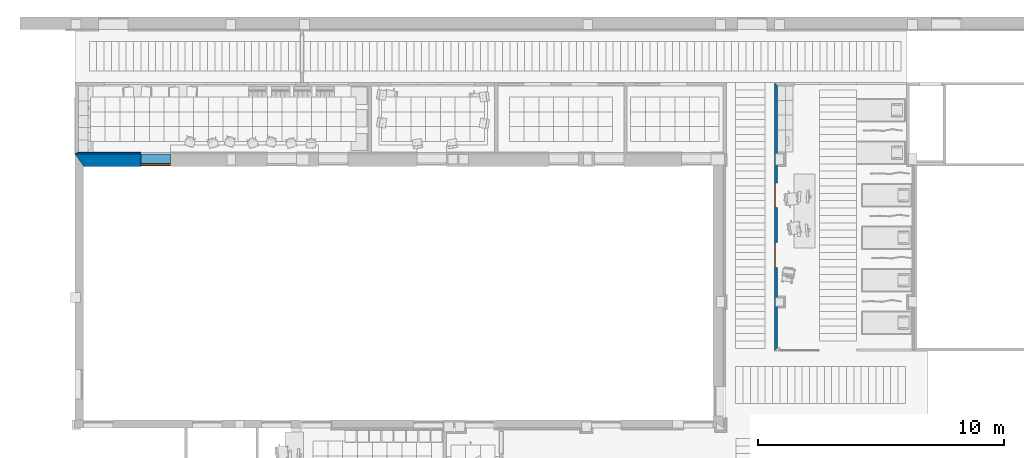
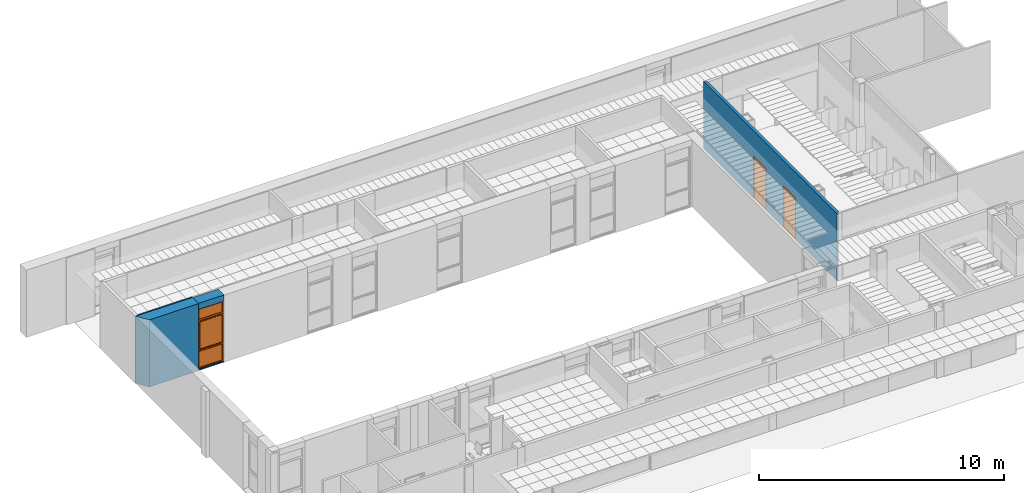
# One storey, part 35 of 68: 4 walls, 3 proxies, 3 openings.
"""IFC2X3 building model written with IfcOpenShell, lengths in millimetres."""

from ifc_helpers import new_model, entity, si_unit, converted_unit, derived_unit, money_unit, direction, frame, origin_with_axes, origin_2d_with_axis, place, context, subcontext, project, spatial, polyline, rectangle, outline, extrude, open_shell, faceted_brep, surface_model, source, transform, mapped, material, layer, layer_set, layer_usage, type_object, element, fill, save


model = new_model("IFC2X3")

# Units and contexts
model_context = context("Model", 3, precision=0.01, world=origin_with_axes(), true_north=direction((0.0, 1.0)))
body_context = subcontext(model_context, "Body", "Model", "MODEL_VIEW")
ifc_project = project(units=[si_unit("LENGTHUNIT", "METRE", prefix="MILLI"), si_unit("AREAUNIT", "SQUARE_METRE"), si_unit("VOLUMEUNIT", "CUBIC_METRE"), converted_unit("PLANEANGLEUNIT", "DEGREE", entity("IfcPlaneAngleMeasure", 0.0174532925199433), si_unit("PLANEANGLEUNIT", "RADIAN"), dimensions=[0, 0, 0, 0, 0, 0, 0]), money_unit("USD"), converted_unit("TIMEUNIT", "Year", entity("IfcTimeMeasure", 31557600.0), si_unit("TIMEUNIT", "SECOND"), dimensions=[0, 0, 1, 0, 0, 0, 0]), si_unit("MASSUNIT", "GRAM", prefix="KILO"), si_unit("THERMODYNAMICTEMPERATUREUNIT", "DEGREE_CELSIUS"), si_unit("LUMINOUSINTENSITYUNIT", "LUMEN"), si_unit("ENERGYUNIT", "JOULE", prefix="MEGA"), derived_unit("THERMALCONDUCTANCEUNIT", [(si_unit("POWERUNIT", "WATT"), 1), (si_unit("LENGTHUNIT", "METRE"), -1), (si_unit("THERMODYNAMICTEMPERATUREUNIT", "KELVIN"), -1)]), derived_unit("SPECIFICHEATCAPACITYUNIT", [(si_unit("ENERGYUNIT", "JOULE"), 1), (si_unit("MASSUNIT", "GRAM", prefix="KILO"), -1), (si_unit("THERMODYNAMICTEMPERATUREUNIT", "KELVIN"), -1)]), derived_unit("MASSDENSITYUNIT", [(si_unit("MASSUNIT", "GRAM", prefix="KILO"), 1), (si_unit("VOLUMEUNIT", "CUBIC_METRE"), -1)])], contexts=[model_context])

# Site, building, storey
site_placement = place(None, origin_with_axes())
site = spatial("IfcSite", under=ifc_project, at=site_placement, Name="Sitio", CompositionType="ELEMENT")
building_placement = place(site_placement, origin_with_axes())
building = spatial("IfcBuilding", under=site, at=building_placement, Name="Construcción", CompositionType="ELEMENT")
storey_placement = place(building_placement, origin_with_axes())
storey = spatial("IfcBuildingStorey", under=building, at=storey_placement, Name="PLANTA 1ª", CompositionType="ELEMENT", Elevation=0.0)

# Wall, opening, proxy
ifc_material_1 = material(Name="ARQ_AM246_Arrebossat_De_Guix")
ifc_layer_1 = layer(ifc_material_1, 10.0, ventilated="UNKNOWN")
ifc_material_2 = material(Name="ARQ_CE217_Gero")
ifc_layer_2 = layer(ifc_material_2, 120.0, ventilated="UNKNOWN")
ifc_material_3 = material(Name="ARQ_AI031_Aillament_Poliestireno expandido EPS")
ifc_layer_3 = layer(ifc_material_3, 120.0, ventilated="UNKNOWN")
ifc_material_4 = material(Name="ARQ_CE218_Ceramic")
ifc_layer_4 = layer(ifc_material_4, 220.0, ventilated="UNKNOWN")
ifc_layer_5 = layer(ifc_material_1, 10.0, ventilated="UNKNOWN")
ifc_layer_set_1 = layer_set([ifc_layer_1, ifc_layer_2, ifc_layer_3, ifc_layer_4, ifc_layer_5], Name="façana pati CR2 (ampit)")
ifc_layer_usage_1 = layer_usage(ifc_layer_set_1, "AXIS2", "POSITIVE", -480.0)
wall_type_1 = type_object("IfcWallType", Name="façana pati CR2 (ampit) 480", PredefinedType="NOTDEFINED")
wall_1_placement = place(storey_placement, frame((-25366.43135579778, -1208.97582371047, 0.0), z_axis=(0.0, 0.0, 1.0), x_axis=(1.0, 0.0, 0.0)))
wall_1 = element("IfcWallStandardCase", 1, at=wall_1_placement, inside=storey, type_object=wall_type_1, material=ifc_layer_usage_1, Name="MS-200", context=body_context, shape_type="SweptSolid", body=[
    extrude(outline(polyline([(0.0, -480.0), (1200.000000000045, -480.0), (1200.000000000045, 0.0), (0.0, 0.0), (0.0, -480.0)])), origin_with_axes(), (0.0, 0.0, 1.0), 3350.0),
])
opening_1_placement = place(wall_1_placement, frame((600.0000000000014, 0.0, 50.0), z_axis=(0.0, 0.0, 1.0), x_axis=(1.0, 0.0, 0.0)))
opening_1 = element("IfcOpeningElement", 2, at=opening_1_placement, cuts=wall_1, Name="F01", context=body_context, shape_type="SweptSolid", body=[
    extrude(rectangle(XDim=1200.000000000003, YDim=3000.0, at=origin_2d_with_axis()), frame((0.0, -429.9999999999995, 1500.0), z_axis=(0.0, -1.0, 0.0), x_axis=(-1.0, 0.0, 0.0)), (0.0, 0.0, -1.0), 909.9999999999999),
    extrude(rectangle(XDim=1200.000000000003, YDim=3000.0, at=origin_2d_with_axis()), frame((0.0, -429.9999999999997, 1500.0), z_axis=(0.0, 1.0, 0.0), x_axis=(-1.0, 0.0, 0.0)), (0.0, 0.0, -1.0), 530.0),
])
building_element_proxy_type_1 = type_object("IfcBuildingElementProxyType", Name="Ventana Vertical Multi-Faja 27", PredefinedType="NOTDEFINED")
shared_shape_1 = source(origin_with_axes(), body_context, "Body", "SurfaceModel", [
    faceted_brep([(-575.0, 0.0, 925.0), (-549.9999999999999, 0.0, 925.0), (-549.9999999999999, 0.0, 850.0), (-549.9999999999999, 0.0, 50.00000000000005), (-600.0, 0.0, 50.00000000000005), (-600.0, 0.0, 2950.0), (-549.9999999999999, 0.0, 2950.0), (-549.9999999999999, 0.0, 2450.0), (-549.9999999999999, 0.0, 2375.0), (-575.0, 0.0, 2375.0), (-575.0, -25.00000000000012, 925.0), (-549.9999999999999, -25.00000000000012, 925.0), (-549.9999999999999, -25.00000000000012, 950.0000000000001), (-549.9999999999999, -50.00000000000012, 950.0000000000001), (-549.9999999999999, -50.00000000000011, 850.0), (-549.9999999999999, -50.00000000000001, 50.00000000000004), (-600.0, -50.00000000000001, 50.00000000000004), (-600.0, -50.00000000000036, 2950.0), (-549.9999999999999, -50.00000000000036, 2950.0), (-549.9999999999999, -50.0000000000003, 2450.0), (-550.0, -25.00000000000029, 2375.0), (-549.9999999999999, -50.00000000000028, 2350.0), (-549.9999999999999, -25.00000000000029, 2350.0), (-575.0, -25.00000000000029, 2375.0)], [[[0, 1, 2, 3, 4, 5, 6, 7, 8, 9]], [[0, 10, 11, 1]], [[11, 12, 13, 14, 2, 1]], [[3, 2, 14, 15]], [[4, 3, 15, 16]], [[5, 4, 16, 17]], [[6, 5, 17, 18]], [[7, 6, 18, 19]], [[20, 8, 7, 19, 21, 22]], [[20, 23, 9, 8]], [[9, 23, 10, 0]], [[22, 12, 11, 10, 23, 20]], [[22, 21, 13, 12]], [[17, 16, 15, 14, 13, 21, 19, 18]]]),
    faceted_brep([(575.0, 0.0, 925.0), (575.0, 0.0, 2375.0), (549.9999999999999, 0.0, 2375.0), (549.9999999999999, 0.0, 2450.0), (549.9999999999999, 0.0, 2950.0), (600.0, 0.0, 2950.0), (600.0, 0.0, 50.00000000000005), (549.9999999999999, 0.0, 50.00000000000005), (549.9999999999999, 0.0, 850.0), (549.9999999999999, 0.0, 925.0), (575.0, -25.00000000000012, 925.0), (575.0, -25.00000000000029, 2375.0), (549.9999999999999, -25.00000000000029, 2375.0), (549.9999999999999, -25.00000000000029, 2350.0), (549.9999999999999, -50.00000000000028, 2350.0), (549.9999999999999, -50.0000000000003, 2450.0), (549.9999999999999, -50.00000000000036, 2950.0), (600.0, -50.00000000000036, 2950.0), (600.0, -50.00000000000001, 50.00000000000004), (549.9999999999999, -50.00000000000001, 50.00000000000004), (549.9999999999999, -50.00000000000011, 850.0), (550.0, -25.00000000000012, 925.0), (549.9999999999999, -50.00000000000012, 950.0000000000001), (549.9999999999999, -25.00000000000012, 950.0000000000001)], [[[0, 1, 2, 3, 4, 5, 6, 7, 8, 9]], [[0, 10, 11, 1]], [[1, 11, 12, 2]], [[12, 13, 14, 15, 3, 2]], [[4, 3, 15, 16]], [[5, 4, 16, 17]], [[6, 5, 17, 18]], [[7, 6, 18, 19]], [[8, 7, 19, 20]], [[21, 9, 8, 20, 22, 23]], [[9, 21, 10, 0]], [[12, 11, 10, 21, 23, 13]], [[23, 22, 14, 13]], [[14, 22, 20, 19, 18, 17, 16, 15]]]),
    faceted_brep([(-549.9999999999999, -25.00000000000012, 950.0000000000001), (-549.9999999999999, -50.00000000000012, 950.0000000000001), (549.9999999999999, -50.00000000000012, 950.0000000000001), (549.9999999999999, -25.00000000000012, 950.0000000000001), (-549.9999999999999, -25.00000000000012, 925.0), (-549.9999999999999, 0.0, 925.0), (-549.9999999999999, 0.0, 850.0), (-549.9999999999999, -50.00000000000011, 850.0), (549.9999999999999, -50.00000000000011, 850.0), (550.0, -25.00000000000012, 925.0), (549.9999999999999, 0.0, 850.0), (549.9999999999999, 0.0, 925.0)], [[[0, 1, 2, 3]], [[4, 5, 6, 7, 1, 0]], [[1, 7, 8, 2]], [[9, 3, 2, 8, 10, 11]], [[9, 4, 0, 3]], [[5, 4, 9, 11]], [[11, 10, 6, 5]], [[6, 10, 8, 7]]]),
    faceted_brep([(-549.9999999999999, 0.0, 2375.0), (-549.9999999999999, 0.0, 2450.0), (549.9999999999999, 0.0, 2450.0), (549.9999999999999, 0.0, 2375.0), (-550.0, -25.00000000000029, 2375.0), (-549.9999999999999, -25.00000000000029, 2350.0), (-549.9999999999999, -50.00000000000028, 2350.0), (-549.9999999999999, -50.0000000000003, 2450.0), (549.9999999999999, -50.0000000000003, 2450.0), (549.9999999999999, -25.00000000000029, 2375.0), (549.9999999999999, -50.00000000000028, 2350.0), (549.9999999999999, -25.00000000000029, 2350.0)], [[[0, 1, 2, 3]], [[4, 5, 6, 7, 1, 0]], [[2, 1, 7, 8]], [[9, 3, 2, 8, 10, 11]], [[9, 4, 0, 3]], [[11, 5, 4, 9]], [[11, 10, 6, 5]], [[7, 6, 10, 8]]]),
    faceted_brep([(549.9999999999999, -50.00000000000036, 2950.0), (549.9999999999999, 0.0, 2950.0), (600.0, 0.0, 2950.0), (600.0, -50.00000000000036, 2950.0), (-549.9999999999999, -50.00000000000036, 2950.0), (-549.9999999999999, 0.0, 2950.0), (-600.0, 0.0, 2950.0), (-600.0, 0.0, 3000.0), (600.0, 0.0, 3000.0), (600.0, -50.00000000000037, 3000.0), (-600.0, -50.00000000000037, 3000.0), (-600.0, -50.00000000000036, 2950.0)], [[[0, 1, 2, 3]], [[4, 5, 1, 0]], [[1, 5, 6, 7, 8, 2]], [[3, 2, 8, 9]], [[0, 3, 9, 10, 11, 4]], [[11, 6, 5, 4]], [[10, 7, 6, 11]], [[9, 8, 7, 10]]]),
    faceted_brep([(-549.9999999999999, -50.00000000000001, 50.0), (-549.9999999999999, 0.0, 50.00000000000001), (-600.0, 0.0, 50.00000000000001), (-600.0, -50.00000000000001, 50.0), (549.9999999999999, -50.00000000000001, 50.0), (549.9999999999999, 0.0, 50.00000000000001), (600.0, 0.0, 50.00000000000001), (600.0, 0.0, 0.0), (-600.0, 0.0, 0.0), (-600.0, -50.0, 0.0), (600.0, -50.0, 0.0), (600.0, -50.00000000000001, 50.0)], [[[0, 1, 2, 3]], [[4, 5, 1, 0]], [[1, 5, 6, 7, 8, 2]], [[3, 2, 8, 9]], [[0, 3, 9, 10, 11, 4]], [[11, 6, 5, 4]], [[10, 7, 6, 11]], [[9, 8, 7, 10]]]),
    surface_model("IfcShellBasedSurfaceModel", [(-549.9999999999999, -35.0, 49.99999999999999), (549.9999999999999, -35.0, 49.99999999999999), (549.9999999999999, -35.0000000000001, 850.0), (-549.9999999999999, -35.0000000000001, 850.0)], [open_shell([[[0, 1, 2, 3]]])]),
    surface_model("IfcShellBasedSurfaceModel", [(-549.9999999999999, -15.0, 49.99999999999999), (-549.9999999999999, -15.0000000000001, 850.0), (549.9999999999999, -15.0000000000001, 850.0), (549.9999999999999, -15.0, 49.99999999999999)], [open_shell([[[0, 1, 2, 3]]])]),
    faceted_brep([(-521.5, -25.00000000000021, 1677.0), (-522.8397459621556, -25.00000000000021, 1682.0), (-522.8397459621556, -37.00000000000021, 1682.0), (-521.5, -37.00000000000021, 1677.0), (-521.5, -25.0000000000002, 1623.0), (-522.8397459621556, -25.0000000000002, 1618.0), (-526.5, -25.0000000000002, 1614.339745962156), (-531.5, -25.0000000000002, 1613.0), (-543.5, -25.0000000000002, 1613.0), (-548.5, -25.0000000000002, 1614.339745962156), (-552.1602540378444, -25.0000000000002, 1618.0), (-553.5, -25.0000000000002, 1623.0), (-553.5, -25.00000000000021, 1677.0), (-552.1602540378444, -25.00000000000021, 1682.0), (-548.5, -25.00000000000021, 1685.660254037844), (-543.5, -25.00000000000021, 1687.0), (-531.5, -25.00000000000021, 1687.0), (-526.5, -25.00000000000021, 1685.660254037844), (-526.5, -37.00000000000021, 1685.660254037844), (-531.5, -37.00000000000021, 1687.0), (-543.5, -37.00000000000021, 1687.0), (-548.5, -37.00000000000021, 1685.660254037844), (-552.1602540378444, -37.00000000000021, 1682.0), (-553.5, -37.00000000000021, 1677.0), (-553.5, -37.0000000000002, 1623.0), (-552.1602540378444, -37.0000000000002, 1618.0), (-548.5, -37.0000000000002, 1614.339745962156), (-543.5, -37.0000000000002, 1613.0), (-531.5, -37.0000000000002, 1613.0), (-526.5, -37.0000000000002, 1614.339745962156), (-522.8397459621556, -37.0000000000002, 1618.0), (-521.5, -37.0000000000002, 1623.0)], [[[0, 1, 2, 3]], [[0, 4, 5, 6, 7, 8, 9, 10, 11, 12, 13, 14, 15, 16, 17, 1]], [[1, 17, 18, 2]], [[3, 2, 18, 19, 20, 21, 22, 23, 24, 25, 26, 27, 28, 29, 30, 31]], [[4, 0, 3, 31]], [[5, 4, 31, 30]], [[6, 5, 30, 29]], [[7, 6, 29, 28]], [[8, 7, 28, 27]], [[9, 8, 27, 26]], [[10, 9, 26, 25]], [[11, 10, 25, 24]], [[12, 11, 24, 23]], [[13, 12, 23, 22]], [[14, 13, 22, 21]], [[15, 14, 21, 20]], [[16, 15, 20, 19]], [[17, 16, 19, 18]]]),
    faceted_brep([(-537.5, -37.0000000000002, 1663.5), (-544.25, -37.0000000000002, 1661.69134295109), (-544.25, -61.00000000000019, 1661.69134295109), (-537.5, -61.00000000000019, 1663.5), (-530.75, -37.0000000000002, 1661.69134295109), (-525.80865704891, -37.0000000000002, 1656.75), (-524.0, -37.0000000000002, 1650.0), (-525.8086570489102, -37.0000000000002, 1643.25), (-530.75, -37.0000000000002, 1638.30865704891), (-537.5, -37.0000000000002, 1636.5), (-544.25, -37.0000000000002, 1638.30865704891), (-549.19134295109, -37.0000000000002, 1643.25), (-550.9999999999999, -37.0000000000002, 1650.0), (-549.1913429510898, -37.0000000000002, 1656.75), (-549.1913429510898, -61.00000000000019, 1656.75), (-550.9999999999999, -61.00000000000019, 1650.0), (-549.19134295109, -61.00000000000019, 1643.25), (-544.25, -61.00000000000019, 1638.30865704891), (-537.5, -61.00000000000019, 1636.5), (-530.75, -61.00000000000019, 1638.30865704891), (-525.8086570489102, -61.00000000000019, 1643.25), (-524.0, -61.00000000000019, 1650.0), (-525.80865704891, -61.00000000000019, 1656.75), (-530.75, -61.00000000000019, 1661.69134295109)], [[[0, 1, 2, 3]], [[0, 4, 5, 6, 7, 8, 9, 10, 11, 12, 13, 1]], [[1, 13, 14, 2]], [[3, 2, 14, 15, 16, 17, 18, 19, 20, 21, 22, 23]], [[4, 0, 3, 23]], [[5, 4, 23, 22]], [[6, 5, 22, 21]], [[7, 6, 21, 20]], [[8, 7, 20, 19]], [[9, 8, 19, 18]], [[10, 9, 18, 17]], [[11, 10, 17, 16]], [[12, 11, 16, 15]], [[13, 12, 15, 14]]]),
    faceted_brep([(-526.0, -61.00000000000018, 1543.0), (-537.5, -61.00000000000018, 1540.0), (-548.9999999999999, -61.00000000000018, 1543.0), (-550.9999999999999, -61.00000000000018, 1546.0), (-550.9999999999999, -61.00000000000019, 1650.0), (-549.1913429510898, -61.00000000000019, 1656.75), (-544.25, -61.00000000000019, 1661.69134295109), (-537.5, -61.00000000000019, 1663.5), (-530.75, -61.00000000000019, 1661.69134295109), (-525.80865704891, -61.00000000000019, 1656.75), (-524.0, -61.00000000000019, 1650.0), (-524.0, -61.00000000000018, 1546.0), (-525.9999999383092, -69.00000000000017, 1543.000000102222), (-537.499999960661, -69.00000000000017, 1539.999999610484), (-548.9999999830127, -69.00000000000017, 1543.000000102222), (-551.0000003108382, -69.00000000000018, 1545.999999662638), (-551.0000003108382, -69.0000000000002, 1649.99999994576), (-549.1913429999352, -69.0000000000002, 1656.749999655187), (-544.2499996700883, -69.0000000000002, 1661.691342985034), (-537.499999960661, -69.0000000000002, 1663.500000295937), (-530.7500002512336, -69.0000000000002, 1661.691342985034), (-525.8086569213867, -69.0000000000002, 1656.749999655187), (-523.9999996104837, -69.0000000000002, 1649.99999994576), (-523.9999996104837, -69.00000000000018, 1545.999999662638), (-527.8625374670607, -71.99999956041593, 1545.61451963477), (-537.499999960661, -71.99999956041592, 1543.100398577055), (-547.1374624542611, -71.99999956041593, 1545.61451963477), (-548.0000007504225, -71.99999956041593, 1546.908326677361), (-548.0000007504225, -71.99999956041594, 1649.605042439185), (-546.5016170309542, -71.99999956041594, 1655.197085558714), (-542.6970855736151, -71.99999956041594, 1659.001617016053), (-537.499999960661, -71.99999956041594, 1660.394172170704), (-532.3029143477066, -71.99999956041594, 1659.001617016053), (-528.4983828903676, -71.99999956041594, 1655.197085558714), (-526.9999991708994, -71.99999956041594, 1649.605042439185), (-526.9999991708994, -71.99999956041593, 1546.908326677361)], [[[0, 1, 2, 3, 4, 5, 6, 7, 8, 9, 10, 11]], [[1, 0, 12, 13]], [[2, 1, 13, 14]], [[3, 2, 14, 15]], [[4, 3, 15, 16]], [[5, 4, 16, 17]], [[6, 5, 17, 18]], [[7, 6, 18, 19]], [[8, 7, 19, 20]], [[9, 8, 20, 21]], [[10, 9, 21, 22]], [[11, 10, 22, 23]], [[0, 11, 23, 12]], [[13, 12, 24, 25]], [[14, 13, 25, 26]], [[15, 14, 26, 27]], [[16, 15, 27, 28]], [[17, 16, 28, 29]], [[18, 17, 29, 30]], [[19, 18, 30, 31]], [[20, 19, 31, 32]], [[21, 20, 32, 33]], [[22, 21, 33, 34]], [[23, 22, 34, 35]], [[12, 23, 35, 24]], [[26, 25, 24, 35, 34, 33, 32, 31, 30, 29, 28, 27]]]),
    faceted_brep([(-524.9999999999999, -25.00000000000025, 2325.0), (-524.9999999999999, 24.99999999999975, 2325.0), (-575.0, 24.99999999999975, 2325.0), (-575.0, -25.00000000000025, 2325.0), (-524.9999999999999, -25.00000000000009, 975.0000000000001), (-524.9999999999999, 24.99999999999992, 975.0000000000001), (-575.0, 24.99999999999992, 975.0000000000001), (-575.0, -25.00000000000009, 975.0000000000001)], [[[0, 1, 2, 3]], [[4, 5, 1, 0]], [[1, 5, 6, 2]], [[3, 2, 6, 7]], [[0, 3, 7, 4]], [[7, 6, 5, 4]]]),
    faceted_brep([(524.9999999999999, -25.00000000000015, 975.0000000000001), (524.9999999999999, 24.99999999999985, 975.0000000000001), (575.0, 24.99999999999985, 975.0000000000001), (575.0, -25.00000000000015, 975.0000000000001), (524.9999999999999, -25.00000000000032, 2325.0), (524.9999999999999, 24.99999999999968, 2325.0), (575.0, 24.99999999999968, 2325.0), (575.0, -25.00000000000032, 2325.0)], [[[0, 1, 2, 3]], [[4, 5, 1, 0]], [[1, 5, 6, 2]], [[3, 2, 6, 7]], [[0, 3, 7, 4]], [[7, 6, 5, 4]]]),
    faceted_brep([(575.0, -25.00000000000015, 925.0), (575.0, 24.99999999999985, 925.0), (575.0, 24.99999999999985, 975.0000000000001), (575.0, -25.00000000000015, 975.0000000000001), (-575.0, -25.00000000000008, 925.0), (-575.0, 24.99999999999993, 925.0), (-575.0, 24.99999999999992, 975.0000000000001), (-524.9999999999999, 24.99999999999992, 975.0000000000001), (524.9999999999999, 24.99999999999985, 975.0000000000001), (524.9999999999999, -25.00000000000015, 975.0000000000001), (-524.9999999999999, -25.00000000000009, 975.0000000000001), (-575.0, -25.00000000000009, 975.0000000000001)], [[[0, 1, 2, 3]], [[4, 5, 1, 0]], [[1, 5, 6, 7, 8, 2]], [[3, 2, 8, 9]], [[0, 3, 9, 10, 11, 4]], [[11, 6, 5, 4]], [[10, 7, 6, 11]], [[9, 8, 7, 10]]]),
    faceted_brep([(-575.0, -25.00000000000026, 2375.0), (-575.0, 24.99999999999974, 2375.0), (-575.0, 24.99999999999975, 2325.0), (-575.0, -25.00000000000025, 2325.0), (575.0, -25.00000000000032, 2375.0), (575.0, 24.99999999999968, 2375.0), (575.0, 24.99999999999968, 2325.0), (524.9999999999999, 24.99999999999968, 2325.0), (-524.9999999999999, 24.99999999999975, 2325.0), (-524.9999999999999, -25.00000000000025, 2325.0), (524.9999999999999, -25.00000000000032, 2325.0), (575.0, -25.00000000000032, 2325.0)], [[[0, 1, 2, 3]], [[4, 5, 1, 0]], [[1, 5, 6, 7, 8, 2]], [[3, 2, 8, 9]], [[0, 3, 9, 10, 11, 4]], [[11, 6, 5, 4]], [[10, 7, 6, 11]], [[9, 8, 7, 10]]]),
    surface_model("IfcShellBasedSurfaceModel", [(-524.9999999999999, -10.00000000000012, 975.0000000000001), (524.9999999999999, -10.00000000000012, 975.0000000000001), (524.9999999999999, -10.00000000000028, 2325.0), (-524.9999999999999, -10.00000000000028, 2325.0)], [open_shell([[[0, 1, 2, 3]]])]),
    surface_model("IfcShellBasedSurfaceModel", [(-524.9999999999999, 9.999999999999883, 975.0000000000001), (-524.9999999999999, 9.99999999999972, 2325.0), (524.9999999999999, 9.99999999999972, 2325.0), (524.9999999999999, 9.999999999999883, 975.0000000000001)], [open_shell([[[0, 1, 2, 3]]])]),
    surface_model("IfcShellBasedSurfaceModel", [(-549.9999999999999, -35.0000000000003, 2450.0), (549.9999999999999, -35.0000000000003, 2450.0), (549.9999999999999, -35.00000000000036, 2950.0), (-549.9999999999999, -35.00000000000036, 2950.0)], [open_shell([[[0, 1, 2, 3]]])]),
    surface_model("IfcShellBasedSurfaceModel", [(-549.9999999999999, -15.0000000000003, 2450.0), (-549.9999999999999, -15.00000000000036, 2950.0), (549.9999999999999, -15.00000000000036, 2950.0), (549.9999999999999, -15.0000000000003, 2450.0)], [open_shell([[[0, 1, 2, 3]]])]),
])
proxy_1_placement = place(opening_1_placement, frame((600.0000000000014, 0.0, 0.0), z_axis=(0.0, 0.0, 1.0), x_axis=(-1.0, 0.0, 0.0)))
proxy_1 = element("IfcBuildingElementProxy", 3, at=proxy_1_placement, inside=storey, type_object=building_element_proxy_type_1, Name="F01", context=body_context, shape_type="MappedRepresentation", body=[
    mapped(shared_shape_1, transform((600.0000000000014, 429.9999999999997, 0.0))),
])
fill(opening_1, proxy_1)

# Wall
ifc_layer_6 = layer(ifc_material_2, 10.0, ventilated="UNKNOWN")
ifc_layer_7 = layer(ifc_material_2, 90.0, ventilated="UNKNOWN")
ifc_layer_8 = layer(ifc_material_3, 180.0, ventilated="UNKNOWN")
ifc_layer_9 = layer(ifc_material_4, 215.0, ventilated="UNKNOWN")
ifc_layer_10 = layer(ifc_material_1, 10.0, ventilated="UNKNOWN")
ifc_layer_set_2 = layer_set([ifc_layer_6, ifc_layer_7, ifc_layer_8, ifc_layer_9, ifc_layer_10], Name="façana pati CR2")
ifc_layer_usage_2 = layer_usage(ifc_layer_set_2, "AXIS2", "POSITIVE", -505.0)
wall_type_2 = type_object("IfcWallType", Name="façana pati CR2 505", PredefinedType="NOTDEFINED")
wall_2_placement = place(storey_placement, frame((-28050.84818028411, -1193.975823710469, 0.0), z_axis=(0.0, 0.0, 1.0), x_axis=(1.0, 0.0, 0.0)))
element("IfcWallStandardCase", 4, at=wall_2_placement, inside=storey, type_object=wall_type_2, material=ifc_layer_usage_2, Name="MS-200", context=body_context, shape_type="SweptSolid", body=[
    extrude(outline(polyline([(359.9999999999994, -505.0000000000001), (2684.416824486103, -505.0000000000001), (2684.416824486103, 0.0), (0.0, 0.0), (359.9999999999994, -505.0000000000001)])), origin_with_axes(), (0.0, 0.0, 1.0), 3350.0),
])

# Wall, openings, proxies
ifc_material_5 = material(Name="Panel de Yeso Laminado")
ifc_layer_11 = layer(ifc_material_5, 13.0, ventilated="UNKNOWN")
ifc_layer_12 = layer(ifc_material_5, 13.0, ventilated="UNKNOWN")
ifc_material_6 = material(Name="ARQ_AI033_Aillament_Llana_De_Roca")
ifc_layer_13 = layer(ifc_material_6, 70.0, ventilated="UNKNOWN")
ifc_layer_14 = layer(ifc_material_5, 13.0, ventilated="UNKNOWN")
ifc_layer_15 = layer(ifc_material_5, 13.0, ventilated="UNKNOWN")
ifc_material_7 = material(Name="ARQ_EN271_Camara_Aire")
ifc_layer_16 = layer(ifc_material_7, 6.0, ventilated="UNKNOWN")
ifc_material_8 = material(Name="ARQ_FU093_Panellat_HPL")
ifc_layer_17 = layer(ifc_material_8, 6.0, ventilated="UNKNOWN")
ifc_layer_set_3 = layer_set([ifc_layer_11, ifc_layer_12, ifc_layer_13, ifc_layer_14, ifc_layer_15, ifc_layer_16, ifc_layer_17], Name="CR Pladur 70 HPL 1 cara")
ifc_layer_usage_3 = layer_usage(ifc_layer_set_3, "AXIS2", "POSITIVE", -134.0)
wall_type_3 = type_object("IfcWallType", Name="CR Pladur 70 HPL 1 cara 134", PredefinedType="NOTDEFINED")
wall_3_placement = place(storey_placement, frame((390.891077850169, -9207.420994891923, 0.0), z_axis=(0.0, 0.0, 1.0), x_axis=(0.0, 1.0, 0.0)))
wall_3 = element("IfcWallStandardCase", 5, at=wall_3_placement, inside=storey, type_object=wall_type_3, material=ifc_layer_usage_3, Name="MS-212", context=body_context, shape_type="SweptSolid", body=[
    extrude(outline(polyline([(134.0000000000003, -134.0), (10774.27405080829, -134.0), (10908.27405080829, 0.0), (0.0, 0.0), (134.0000000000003, -134.0)])), origin_with_axes(), (0.0, 0.0, 1.0), 3350.0),
])
opening_2_placement = place(wall_3_placement, frame((6325.592101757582, 0.0, 0.0), z_axis=(0.0, 0.0, 1.0), x_axis=(1.0, 0.0, 0.0)))
opening_2 = element("IfcOpeningElement", 6, at=opening_2_placement, cuts=wall_3, Name="F-02", context=body_context, shape_type="SweptSolid", body=[
    extrude(rectangle(XDim=1000.0, YDim=2100.0, at=origin_2d_with_axis()), frame((0.0, -133.9999999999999, 1050.0), z_axis=(0.0, -1.0, 0.0), x_axis=(-1.0, 0.0, 0.0)), (0.0, 0.0, -1.0), 402.0),
])
opening_3_placement = place(wall_3_placement, frame((3902.482519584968, 0.0, 0.0), z_axis=(0.0, 0.0, 1.0), x_axis=(1.0, 0.0, 0.0)))
opening_3 = element("IfcOpeningElement", 7, at=opening_3_placement, cuts=wall_3, Name="F-02", context=body_context, shape_type="SweptSolid", body=[
    extrude(rectangle(XDim=1000.0, YDim=2100.0, at=origin_2d_with_axis()), frame((0.0, -134.0, 1050.0), z_axis=(0.0, -1.0, 0.0), x_axis=(-1.0, 0.0, 0.0)), (0.0, 0.0, -1.0), 402.0),
])
building_element_proxy_type_2 = type_object("IfcBuildingElementProxyType", Name="Ventana 27", PredefinedType="NOTDEFINED")
shared_shape_2 = source(origin_with_axes(), body_context, "Body", "SurfaceModel", [
    faceted_brep([(450.0, -50.00000000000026, 2050.0), (500.0, -50.00000000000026, 2050.0), (500.0, 0.0, 2050.0), (450.0, 0.0, 2050.0), (450.0, -50.00000000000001, 50.0), (500.0, -50.00000000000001, 50.0), (500.0, 0.0, 50.00000000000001), (450.0, 0.0, 50.00000000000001)], [[[0, 1, 2, 3]], [[0, 4, 5, 1]], [[1, 5, 6, 2]], [[3, 2, 6, 7]], [[4, 0, 3, 7]], [[5, 4, 7, 6]]]),
    faceted_brep([(-450.0, -50.00000000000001, 50.0), (-500.0, -50.00000000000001, 50.0), (-500.0, 0.0, 50.00000000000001), (-450.0, 0.0, 50.00000000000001), (-450.0, -50.00000000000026, 2050.0), (-500.0, -50.00000000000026, 2050.0), (-500.0, 0.0, 2050.0), (-450.0, 0.0, 2050.0)], [[[0, 1, 2, 3]], [[0, 4, 5, 1]], [[1, 5, 6, 2]], [[3, 2, 6, 7]], [[4, 0, 3, 7]], [[5, 4, 7, 6]]]),
    faceted_brep([(450.0, -50.00000000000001, 50.0), (500.0, -50.00000000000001, 50.0), (500.0, 0.0, 50.00000000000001), (450.0, 0.0, 50.00000000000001), (-450.0, -50.00000000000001, 50.0), (-500.0, -50.00000000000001, 50.0), (-500.0, -50.0, 0.0), (500.0, -50.0, 0.0), (500.0, 0.0, 0.0), (-500.0, 0.0, 0.0), (-500.0, 0.0, 50.00000000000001), (-450.0, 0.0, 50.00000000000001)], [[[0, 1, 2, 3]], [[0, 4, 5, 6, 7, 1]], [[1, 7, 8, 2]], [[3, 2, 8, 9, 10, 11]], [[4, 0, 3, 11]], [[5, 4, 11, 10]], [[6, 5, 10, 9]], [[7, 6, 9, 8]]]),
    faceted_brep([(-450.0, -50.00000000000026, 2050.0), (-500.0, -50.00000000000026, 2050.0), (-500.0, 0.0, 2050.0), (-450.0, 0.0, 2050.0), (450.0, -50.00000000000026, 2050.0), (500.0, -50.00000000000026, 2050.0), (500.0, -50.00000000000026, 2100.0), (-500.0, -50.00000000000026, 2100.0), (-500.0, 0.0, 2100.0), (500.0, 0.0, 2100.0), (500.0, 0.0, 2050.0), (450.0, 0.0, 2050.0)], [[[0, 1, 2, 3]], [[0, 4, 5, 6, 7, 1]], [[1, 7, 8, 2]], [[3, 2, 8, 9, 10, 11]], [[4, 0, 3, 11]], [[5, 4, 11, 10]], [[6, 5, 10, 9]], [[7, 6, 9, 8]]]),
    surface_model("IfcShellBasedSurfaceModel", [(450.0, -35.0, 49.99999999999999), (450.0, -35.00000000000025, 2050.0), (-450.0, -35.00000000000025, 2050.0), (-450.0, -35.0, 49.99999999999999)], [open_shell([[[0, 1, 2, 3]]])]),
    surface_model("IfcShellBasedSurfaceModel", [(450.0, -15.0, 49.99999999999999), (-450.0, -15.0, 49.99999999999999), (-450.0, -15.00000000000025, 2050.0), (450.0, -15.00000000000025, 2050.0)], [open_shell([[[0, 1, 2, 3]]])]),
])
proxy_2_placement = place(opening_2_placement, frame((-500.0, 0.0, 0.0), z_axis=(0.0, 0.0, 1.0), x_axis=(1.0, 0.0, 0.0)))
proxy_2 = element("IfcBuildingElementProxy", 8, at=proxy_2_placement, inside=storey, type_object=building_element_proxy_type_2, Name="F-02", context=body_context, shape_type="MappedRepresentation", body=[
    mapped(shared_shape_2, transform((500.0, 0.0, 0.0))),
])
fill(opening_2, proxy_2)
proxy_3_placement = place(opening_3_placement, frame((-500.0, 0.0, 0.0), z_axis=(0.0, 0.0, 1.0), x_axis=(1.0, 0.0, 0.0)))
proxy_3 = element("IfcBuildingElementProxy", 9, at=proxy_3_placement, inside=storey, type_object=building_element_proxy_type_2, Name="F-02", context=body_context, shape_type="MappedRepresentation", body=[
    mapped(shared_shape_2, transform((500.0, 0.0, 0.0))),
])
fill(opening_3, proxy_3)

# Wall
ifc_layer_18 = layer(ifc_material_8, 6.0, ventilated="UNKNOWN")
ifc_layer_19 = layer(ifc_material_7, 6.0, ventilated="UNKNOWN")
ifc_layer_20 = layer(ifc_material_5, 13.0, ventilated="UNKNOWN")
ifc_layer_21 = layer(ifc_material_6, 40.0, ventilated="UNKNOWN")
ifc_layer_set_4 = layer_set([ifc_layer_18, ifc_layer_19, ifc_layer_20, ifc_layer_21], Name="Pladur Tras 40 / 1N +HPL")
ifc_layer_usage_4 = layer_usage(ifc_layer_set_4, "AXIS2", "NEGATIVE", 0.0)
wall_type_4 = type_object("IfcWallType", Name="Pladur Tras 40 / 1N +HPL 65", PredefinedType="NOTDEFINED")
wall_4_placement = place(storey_placement, frame((-27904.84818028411, -1128.975823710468, 0.0), z_axis=(0.0, 0.0, 1.0), x_axis=(1.0, 0.0, 0.0)))
element("IfcWallStandardCase", 10, at=wall_4_placement, inside=storey, type_object=wall_type_4, material=ifc_layer_usage_4, Name="MS-241", context=body_context, shape_type="SweptSolid", body=[
    extrude(outline(polyline([(-146.0000000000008, -64.99999999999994), (2538.416824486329, -64.99999999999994), (2538.416824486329, 0.0), (0.0, 0.0), (-146.0000000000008, -64.99999999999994)])), origin_with_axes(), (0.0, 0.0, 1.0), 3350.0),
])

save(model, "model.ifc")
